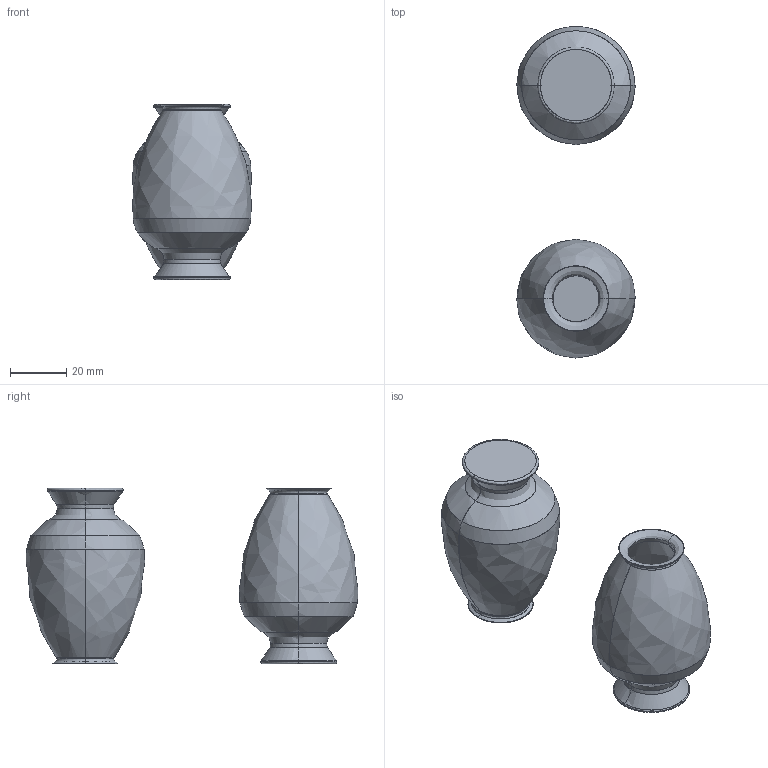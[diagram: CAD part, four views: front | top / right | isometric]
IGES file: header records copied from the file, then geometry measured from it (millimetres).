
Global section: file name: C:\Users\colombo_c\Desktop\Danese\Sito\3D mancanti\Vase 96\Vase 96.igs; native system: Rhinoceros ( Apr 16 2024 ); preprocessor: Trout Lake IGES 012 Apr 16 2024; date: 250717.075820; units: millimetre
Bounding box: 42.05 x 117.75 x 62.3 mm (x, y, z)
Surface area: 28720.8 mm2 (no closed solid volume)
Topology: 0 solids, 0 shells, 94 faces, 378 edges, 376 vertices
Faces by surface type: bspline 94
